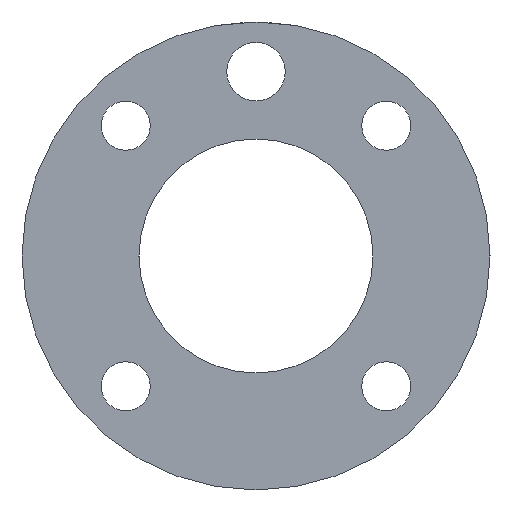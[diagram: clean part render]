
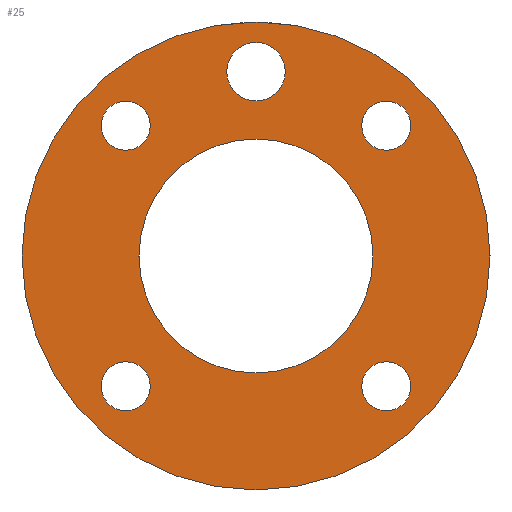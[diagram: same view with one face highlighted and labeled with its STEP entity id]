
A CAD part, left-side view. The second image highlights one B-rep face of the part: STEP entity #25.
In plain terms, the highlighted planar face has unit normal (-1, 0, 0).
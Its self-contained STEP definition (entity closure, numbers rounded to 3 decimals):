
#25 = ADVANCED_FACE ( 'NONE', ( #272, #269, #271, #270, #276, #268, #267 ), #640, .F. ) ;
#33 = EDGE_CURVE ( 'NONE', #399, #380, #266, .T. ) ;
#54 = EDGE_CURVE ( 'NONE', #411, #446, #249, .T. ) ;
#57 = EDGE_CURVE ( 'NONE', #407, #390, #246, .T. ) ;
#59 = EDGE_CURVE ( 'NONE', #388, #389, #241, .T. ) ;
#63 = EDGE_CURVE ( 'NONE', #404, #420, #239, .T. ) ;
#71 = AXIS2_PLACEMENT_3D ( 'NONE', #646, #645, #643 ) ;
#74 = AXIS2_PLACEMENT_3D ( 'NONE', #654, #653, #652 ) ;
#77 = EDGE_CURVE ( 'NONE', #446, #411, #235, .T. ) ;
#78 = AXIS2_PLACEMENT_3D ( 'NONE', #667, #666, #665 ) ;
#80 = AXIS2_PLACEMENT_3D ( 'NONE', #672, #671, #670 ) ;
#84 = AXIS2_PLACEMENT_3D ( 'NONE', #697, #695, #693 ) ;
#86 = AXIS2_PLACEMENT_3D ( 'NONE', #702, #699, #698 ) ;
#87 = AXIS2_PLACEMENT_3D ( 'NONE', #708, #707, #706 ) ;
#101 = EDGE_CURVE ( 'NONE', #417, #397, #211, .T. ) ;
#104 = AXIS2_PLACEMENT_3D ( 'NONE', #745, #744, #743 ) ;
#109 = AXIS2_PLACEMENT_3D ( 'NONE', #792, #791, #789 ) ;
#113 = AXIS2_PLACEMENT_3D ( 'NONE', #815, #814, #813 ) ;
#115 = AXIS2_PLACEMENT_3D ( 'NONE', #831, #830, #827 ) ;
#117 = AXIS2_PLACEMENT_3D ( 'NONE', #837, #836, #835 ) ;
#118 = AXIS2_PLACEMENT_3D ( 'NONE', #840, #839, #838 ) ;
#122 = AXIS2_PLACEMENT_3D ( 'NONE', #591, #650, #588 ) ;
#123 = AXIS2_PLACEMENT_3D ( 'NONE', #863, #594, #862 ) ;
#149 = EDGE_CURVE ( 'NONE', #416, #408, #196, .T. ) ;
#150 = EDGE_CURVE ( 'NONE', #397, #417, #194, .T. ) ;
#151 = EDGE_CURVE ( 'NONE', #389, #388, #193, .T. ) ;
#157 = EDGE_CURVE ( 'NONE', #380, #399, #185, .T. ) ;
#158 = EDGE_CURVE ( 'NONE', #390, #407, #183, .T. ) ;
#160 = EDGE_CURVE ( 'NONE', #420, #404, #181, .T. ) ;
#161 = EDGE_CURVE ( 'NONE', #408, #416, #180, .T. ) ;
#180 = CIRCLE ( 'NONE', #71, 2.1 ) ;
#181 = CIRCLE ( 'NONE', #74, 2.5 ) ;
#183 = CIRCLE ( 'NONE', #78, 2.1 ) ;
#185 = CIRCLE ( 'NONE', #80, 10. ) ;
#193 = CIRCLE ( 'NONE', #84, 2.1 ) ;
#194 = CIRCLE ( 'NONE', #86, 2.1 ) ;
#196 = CIRCLE ( 'NONE', #87, 2.1 ) ;
#211 = CIRCLE ( 'NONE', #104, 2.1 ) ;
#235 = CIRCLE ( 'NONE', #109, 20. ) ;
#239 = CIRCLE ( 'NONE', #113, 2.5 ) ;
#241 = CIRCLE ( 'NONE', #115, 2.1 ) ;
#246 = CIRCLE ( 'NONE', #117, 2.1 ) ;
#249 = CIRCLE ( 'NONE', #118, 20. ) ;
#266 = CIRCLE ( 'NONE', #123, 10. ) ;
#267 = FACE_BOUND ( 'NONE', #427, .T. ) ;
#268 = FACE_BOUND ( 'NONE', #442, .T. ) ;
#269 = FACE_BOUND ( 'NONE', #409, .T. ) ;
#270 = FACE_OUTER_BOUND ( 'NONE', #512, .T. ) ;
#271 = FACE_BOUND ( 'NONE', #434, .T. ) ;
#272 = FACE_BOUND ( 'NONE', #410, .T. ) ;
#276 = FACE_BOUND ( 'NONE', #432, .T. ) ;
#324 = ORIENTED_EDGE ( 'NONE', *, *, #59, .F. ) ;
#334 = ORIENTED_EDGE ( 'NONE', *, *, #157, .T. ) ;
#355 = ORIENTED_EDGE ( 'NONE', *, *, #33, .T. ) ;
#364 = ORIENTED_EDGE ( 'NONE', *, *, #101, .F. ) ;
#366 = ORIENTED_EDGE ( 'NONE', *, *, #150, .F. ) ;
#367 = ORIENTED_EDGE ( 'NONE', *, *, #54, .T. ) ;
#368 = ORIENTED_EDGE ( 'NONE', *, *, #151, .F. ) ;
#373 = ORIENTED_EDGE ( 'NONE', *, *, #158, .F. ) ;
#374 = ORIENTED_EDGE ( 'NONE', *, *, #63, .F. ) ;
#375 = ORIENTED_EDGE ( 'NONE', *, *, #161, .F. ) ;
#377 = ORIENTED_EDGE ( 'NONE', *, *, #57, .F. ) ;
#380 = VERTEX_POINT ( 'NONE', #627 ) ;
#388 = VERTEX_POINT ( 'NONE', #619 ) ;
#389 = VERTEX_POINT ( 'NONE', #632 ) ;
#390 = VERTEX_POINT ( 'NONE', #618 ) ;
#391 = ORIENTED_EDGE ( 'NONE', *, *, #149, .F. ) ;
#397 = VERTEX_POINT ( 'NONE', #611 ) ;
#399 = VERTEX_POINT ( 'NONE', #617 ) ;
#404 = VERTEX_POINT ( 'NONE', #603 ) ;
#407 = VERTEX_POINT ( 'NONE', #599 ) ;
#408 = VERTEX_POINT ( 'NONE', #609 ) ;
#409 = EDGE_LOOP ( 'NONE', ( #373, #377 ) ) ;
#410 = EDGE_LOOP ( 'NONE', ( #375, #391 ) ) ;
#411 = VERTEX_POINT ( 'NONE', #598 ) ;
#416 = VERTEX_POINT ( 'NONE', #590 ) ;
#417 = VERTEX_POINT ( 'NONE', #589 ) ;
#420 = VERTEX_POINT ( 'NONE', #586 ) ;
#427 = EDGE_LOOP ( 'NONE', ( #355, #334 ) ) ;
#432 = EDGE_LOOP ( 'NONE', ( #368, #324 ) ) ;
#434 = EDGE_LOOP ( 'NONE', ( #545, #374 ) ) ;
#442 = EDGE_LOOP ( 'NONE', ( #364, #366 ) ) ;
#446 = VERTEX_POINT ( 'NONE', #579 ) ;
#472 = ORIENTED_EDGE ( 'NONE', *, *, #77, .T. ) ;
#512 = EDGE_LOOP ( 'NONE', ( #472, #367 ) ) ;
#545 = ORIENTED_EDGE ( 'NONE', *, *, #160, .F. ) ;
#579 = CARTESIAN_POINT ( 'NONE',  ( 528., 20., 889.1 ) ) ;
#586 = CARTESIAN_POINT ( 'NONE',  ( 528., 2.5, 904.85 ) ) ;
#588 = DIRECTION ( 'NONE',  ( 0., 1., 0. ) ) ;
#589 = CARTESIAN_POINT ( 'NONE',  ( 528., -9.037, 900.237 ) ) ;
#590 = CARTESIAN_POINT ( 'NONE',  ( 528., 9.037, 900.237 ) ) ;
#591 = CARTESIAN_POINT ( 'NONE',  ( 528., 0., 889.1 ) ) ;
#594 = DIRECTION ( 'NONE',  ( 1., 0., 0. ) ) ;
#598 = CARTESIAN_POINT ( 'NONE',  ( 528., -20., 889.1 ) ) ;
#599 = CARTESIAN_POINT ( 'NONE',  ( 528., -13.237, 877.963 ) ) ;
#603 = CARTESIAN_POINT ( 'NONE',  ( 528., -2.5, 904.85 ) ) ;
#609 = CARTESIAN_POINT ( 'NONE',  ( 528., 13.237, 900.237 ) ) ;
#611 = CARTESIAN_POINT ( 'NONE',  ( 528., -13.237, 900.237 ) ) ;
#617 = CARTESIAN_POINT ( 'NONE',  ( 528., -10., 889.1 ) ) ;
#618 = CARTESIAN_POINT ( 'NONE',  ( 528., -9.037, 877.963 ) ) ;
#619 = CARTESIAN_POINT ( 'NONE',  ( 528., 9.037, 877.963 ) ) ;
#627 = CARTESIAN_POINT ( 'NONE',  ( 528., 10., 889.1 ) ) ;
#632 = CARTESIAN_POINT ( 'NONE',  ( 528., 13.237, 877.963 ) ) ;
#640 = PLANE ( 'NONE',  #122 ) ;
#643 = DIRECTION ( 'NONE',  ( 0., 1., 0. ) ) ;
#645 = DIRECTION ( 'NONE',  ( -1., 0., 0. ) ) ;
#646 = CARTESIAN_POINT ( 'NONE',  ( 528., 11.137, 900.237 ) ) ;
#650 = DIRECTION ( 'NONE',  ( 1., 0., 0. ) ) ;
#652 = DIRECTION ( 'NONE',  ( 0., 1., 0. ) ) ;
#653 = DIRECTION ( 'NONE',  ( -1., 0., 0. ) ) ;
#654 = CARTESIAN_POINT ( 'NONE',  ( 528., 0., 904.85 ) ) ;
#665 = DIRECTION ( 'NONE',  ( 0., 1., 0. ) ) ;
#666 = DIRECTION ( 'NONE',  ( -1., 0., 0. ) ) ;
#667 = CARTESIAN_POINT ( 'NONE',  ( 528., -11.137, 877.963 ) ) ;
#670 = DIRECTION ( 'NONE',  ( 0., 1., 0. ) ) ;
#671 = DIRECTION ( 'NONE',  ( 1., 0., 0. ) ) ;
#672 = CARTESIAN_POINT ( 'NONE',  ( 528., 0., 889.1 ) ) ;
#693 = DIRECTION ( 'NONE',  ( 0., 1., 0. ) ) ;
#695 = DIRECTION ( 'NONE',  ( -1., 0., 0. ) ) ;
#697 = CARTESIAN_POINT ( 'NONE',  ( 528., 11.137, 877.963 ) ) ;
#698 = DIRECTION ( 'NONE',  ( 0., 1., 0. ) ) ;
#699 = DIRECTION ( 'NONE',  ( -1., 0., 0. ) ) ;
#702 = CARTESIAN_POINT ( 'NONE',  ( 528., -11.137, 900.237 ) ) ;
#706 = DIRECTION ( 'NONE',  ( 0., 1., 0. ) ) ;
#707 = DIRECTION ( 'NONE',  ( -1., 0., 0. ) ) ;
#708 = CARTESIAN_POINT ( 'NONE',  ( 528., 11.137, 900.237 ) ) ;
#743 = DIRECTION ( 'NONE',  ( 0., 1., 0. ) ) ;
#744 = DIRECTION ( 'NONE',  ( -1., 0., 0. ) ) ;
#745 = CARTESIAN_POINT ( 'NONE',  ( 528., -11.137, 900.237 ) ) ;
#789 = DIRECTION ( 'NONE',  ( 0., 1., 0. ) ) ;
#791 = DIRECTION ( 'NONE',  ( -1., 0., 0. ) ) ;
#792 = CARTESIAN_POINT ( 'NONE',  ( 528., 0., 889.1 ) ) ;
#813 = DIRECTION ( 'NONE',  ( 0., 1., 0. ) ) ;
#814 = DIRECTION ( 'NONE',  ( -1., 0., 0. ) ) ;
#815 = CARTESIAN_POINT ( 'NONE',  ( 528., 0., 904.85 ) ) ;
#827 = DIRECTION ( 'NONE',  ( 0., 1., 0. ) ) ;
#830 = DIRECTION ( 'NONE',  ( -1., 0., 0. ) ) ;
#831 = CARTESIAN_POINT ( 'NONE',  ( 528., 11.137, 877.963 ) ) ;
#835 = DIRECTION ( 'NONE',  ( 0., 1., 0. ) ) ;
#836 = DIRECTION ( 'NONE',  ( -1., 0., 0. ) ) ;
#837 = CARTESIAN_POINT ( 'NONE',  ( 528., -11.137, 877.963 ) ) ;
#838 = DIRECTION ( 'NONE',  ( 0., 1., 0. ) ) ;
#839 = DIRECTION ( 'NONE',  ( -1., 0., 0. ) ) ;
#840 = CARTESIAN_POINT ( 'NONE',  ( 528., 0., 889.1 ) ) ;
#862 = DIRECTION ( 'NONE',  ( 0., 1., 0. ) ) ;
#863 = CARTESIAN_POINT ( 'NONE',  ( 528., 0., 889.1 ) ) ;
